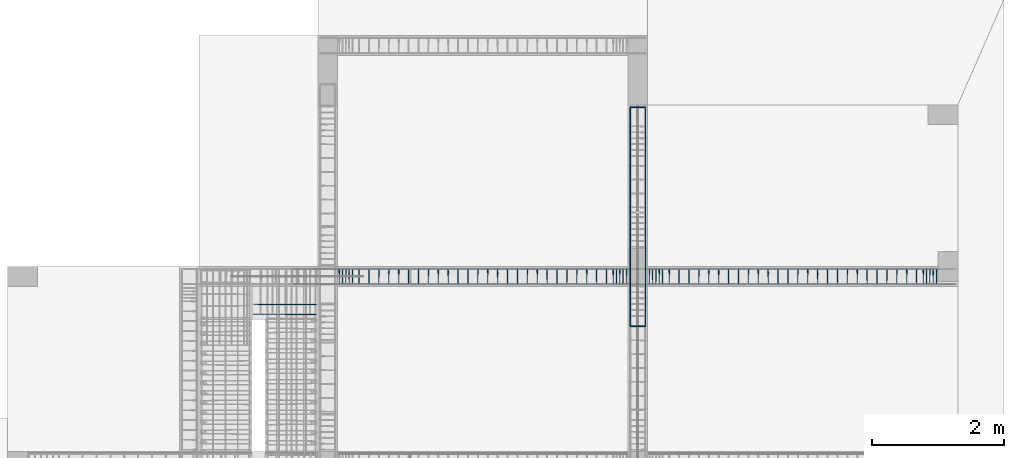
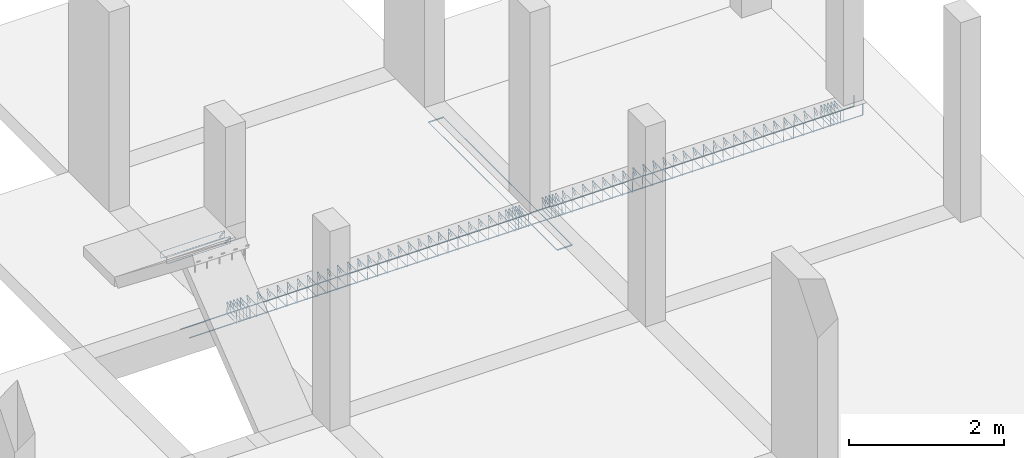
# One storey, part 5 of 5: 4 reinforcing bars.
"""IFC4 building model written with IfcOpenShell, lengths in metres."""

import ifcopenshell
import ifcopenshell.guid

model = None  # the IFC model being written
_history = None  # IfcOwnerHistory: only IFC2X3 demands one
_inside = {}  # id of a spatial element -> (the spatial element, [elements in it])
_under = {}  # id of a project, library or spatial element -> (it, [spatial elements below it])
_declared = {}  # id of a project -> (the project, [libraries it declares])
_typed = {}  # id of a type object -> (the type object, [elements of that type])
_made_of = {}  # id of a material, layer set ... -> (it, [elements and type objects made of it])


def new_model(schema):
    """Start an empty IFC model of exactly this schema.

    Asked for "IFC4X3", IfcOpenShell would pick the latest addendum, in which some entities
    have other attributes; the version numbers below select the first issue.
    IFC2X3 requires an IfcOwnerHistory on every rooted entity: one is made here for all.
    """
    global model, _history
    if schema == "IFC4X3":
        model = ifcopenshell.file(schema_version=(4, 3, 0, 0))
    else:
        model = ifcopenshell.file(schema=schema)
    _inside.clear()
    _under.clear()
    _declared.clear()
    _typed.clear()
    _made_of.clear()
    _history = None
    if model.schema == "IFC2X3":
        org = make("IfcOrganization", Name="unknown")
        user = make(
            "IfcPersonAndOrganization",
            ThePerson=make("IfcPerson", FamilyName="unknown"),
            TheOrganization=org,
        )
        app = make(
            "IfcApplication",
            ApplicationDeveloper=org,
            Version="unknown",
            ApplicationFullName="unknown",
            ApplicationIdentifier="unknown",
        )
        _history = make(
            "IfcOwnerHistory",
            OwningUser=user,
            OwningApplication=app,
            ChangeAction="ADDED",
            CreationDate=0,
        )
    return model


def make(cls, **values):
    """One entity of the class cls with the attributes given. An attribute that is None is left unset."""
    return model.create_entity(
        cls, **{name: value for name, value in values.items() if value is not None}
    )


def entity(cls, *values):
    """Any entity or typed value of the class cls, its attributes in the order of the schema. None: left unset."""
    e = model.create_entity(cls)
    for i, value in enumerate(values):
        if value is not None:
            e[i] = value
    return e


def rooted(cls, **values):
    """An entity with a GlobalId (a new one), such as an element, a storey or a relation."""
    return make(cls, GlobalId=ifcopenshell.guid.new(), OwnerHistory=_history, **values)


def si_unit(unit_type, name, prefix=None):
    """IfcSIUnit, for example si_unit("LENGTHUNIT", "METRE", prefix="MILLI")."""
    return make("IfcSIUnit", UnitType=unit_type, Prefix=prefix, Name=name)


def assignment(units):
    """IfcUnitAssignment: the units of a project."""
    return None if units is None else make("IfcUnitAssignment", Units=units)


def point(xyz):
    """IfcCartesianPoint."""
    return None if xyz is None else make("IfcCartesianPoint", Coordinates=xyz)


def direction(xyz):
    """IfcDirection."""
    return None if xyz is None else make("IfcDirection", DirectionRatios=xyz)


def frame(location, z_axis=None, x_axis=None):
    """IfcAxis2Placement3D, a coordinate frame: its origin and axes. An axis left out is left unset."""
    return make(
        "IfcAxis2Placement3D",
        Location=point(location),
        Axis=direction(z_axis),
        RefDirection=direction(x_axis),
    )


def origin_with_axes():
    """The frame at (0, 0, 0) with the z axis (0, 0, 1) and the x axis (1, 0, 0) written out."""
    return frame((0.0, 0.0, 0.0), z_axis=(0.0, 0.0, 1.0), x_axis=(1.0, 0.0, 0.0))


def place(relative_to, where):
    """IfcLocalPlacement: puts the frame where relative to a parent placement (None: the world)."""
    return make(
        "IfcLocalPlacement", PlacementRelTo=relative_to, RelativePlacement=where
    )


def context(
    kind, dimensions, precision=None, world=None, true_north=None, identifier=None
):
    """IfcGeometricRepresentationContext, for example the 3D "Model" context."""
    return make(
        "IfcGeometricRepresentationContext",
        ContextIdentifier=identifier,
        ContextType=kind,
        CoordinateSpaceDimension=dimensions,
        Precision=precision,
        WorldCoordinateSystem=world,
        TrueNorth=true_north,
    )


def project(units=None, contexts=None):
    """IfcProject with its units and contexts."""
    return rooted(
        "IfcProject",
        Name="project",
        RepresentationContexts=contexts,
        UnitsInContext=assignment(units),
    )


def spatial(cls, under=None, at=None, **own):
    """A site, building, storey or space (cls), placed at a placement, below another one or the project."""
    s = rooted(cls, ObjectPlacement=at, **own)
    if under is not None:
        _under.setdefault(under.id(), (under, []))[1].append(s)
    return s


def shape(context_of_items, identifier, shape_type, items):
    """IfcShapeRepresentation: the items that make up one representation, for example the "Body"."""
    return make(
        "IfcShapeRepresentation",
        ContextOfItems=context_of_items,
        RepresentationIdentifier=identifier,
        RepresentationType=shape_type,
        Items=items,
    )


def source(mapping_origin, context_of_items, identifier, shape_type, items):
    """IfcRepresentationMap: a shape defined once, which mapped items show again and again."""
    return make(
        "IfcRepresentationMap",
        MappingOrigin=mapping_origin,
        MappedRepresentation=shape(context_of_items, identifier, shape_type, items),
    )


def transform(
    local_origin,
    x_axis=None,
    y_axis=None,
    z_axis=None,
    scale=None,
    scale2=None,
    scale3=None,
    uniform=True,
):
    """IfcCartesianTransformationOperator3D, or its non-uniform kind. x_axis, y_axis, z_axis: its Axis1, 2, 3."""
    if uniform:
        return make(
            "IfcCartesianTransformationOperator3D",
            Axis1=direction(x_axis),
            Axis2=direction(y_axis),
            LocalOrigin=point(local_origin),
            Scale=scale,
            Axis3=direction(z_axis),
        )
    return make(
        "IfcCartesianTransformationOperator3DnonUniform",
        Axis1=direction(x_axis),
        Axis2=direction(y_axis),
        LocalOrigin=point(local_origin),
        Scale=scale,
        Axis3=direction(z_axis),
        Scale2=scale2,
        Scale3=scale3,
    )


def mapped(mapping_source, mapping_target):
    """IfcMappedItem: shows the shape of a source again, moved by a transform."""
    return make(
        "IfcMappedItem", MappingSource=mapping_source, MappingTarget=mapping_target
    )


def made_of(thing, what):
    """Note that an element or type object is made of a material, layer set ...; save() writes the relation."""
    if what is not None:
        _made_of.setdefault(what.id(), (what, []))[1].append(thing)
    return thing


def element(
    cls,
    number,
    at=None,
    inside=None,
    cuts=None,
    type_object=None,
    material=None,
    context=None,
    identifier="Body",
    shape_type=None,
    held_by="IfcProductDefinitionShape",
    body=None,
    shapes=None,
    **own,
):
    """One element of the class cls, such as IfcWall. Its Tag is "e" and its number.

    at: its placement. inside: the storey or other place that contains it. cuts: it is an
    opening in that element (IfcRelVoidsElement). A single representation is given by context,
    identifier, shape_type and body (its items); several are given by shapes. held_by: the class
    of the entity that holds the representations. save() writes the other relations.
    """
    e = rooted(cls, Tag="e%d" % number, ObjectPlacement=at, **own)
    if body is not None:
        shapes = [shape(context, identifier, shape_type, body)]
    if shapes is not None:
        e.Representation = make(held_by, Representations=shapes)
    if inside is not None:
        _inside.setdefault(inside.id(), (inside, []))[1].append(e)
    if cuts is not None:
        rooted(
            "IfcRelVoidsElement", RelatingBuildingElement=cuts, RelatedOpeningElement=e
        )
    if type_object is not None:
        _typed.setdefault(type_object.id(), (type_object, []))[1].append(e)
    return made_of(e, material)


def aggregate(whole, parts):
    """IfcRelAggregates: a whole, such as a stair, and the parts it consists of."""
    return rooted("IfcRelAggregates", RelatingObject=whole, RelatedObjects=parts)


def save(model, path):
    """Write the relations noted so far, then the file.

    IfcRelAggregates (storeys below a building ...), IfcRelContainedInSpatialStructure (elements
    in a storey), IfcRelDefinesByType, IfcRelAssociatesMaterial and IfcRelDeclares: one each for
    every whole, place, type object, material and project.
    """
    for whole, parts in _under.values():
        aggregate(whole, parts)
    for where, things in _inside.values():
        rooted(
            "IfcRelContainedInSpatialStructure",
            RelatedElements=things,
            RelatingStructure=where,
        )
    for kind, things in _typed.values():
        rooted("IfcRelDefinesByType", RelatedObjects=things, RelatingType=kind)
    for what, things in _made_of.values():
        rooted("IfcRelAssociatesMaterial", RelatedObjects=things, RelatingMaterial=what)
    for by, libraries in _declared.values():
        rooted("IfcRelDeclares", RelatingContext=by, RelatedDefinitions=libraries)
    model.write(path)


model = new_model("IFC4")

# Units and contexts
model_context = context("Model", 3, precision=1e-05, world=origin_with_axes())
ifc_project = project(units=[si_unit("LENGTHUNIT", "METRE"), si_unit("AREAUNIT", "SQUARE_METRE"), si_unit("VOLUMEUNIT", "CUBIC_METRE"), si_unit("MASSUNIT", "GRAM", prefix="KILO"), si_unit("TIMEUNIT", "SECOND"), si_unit("PLANEANGLEUNIT", "RADIAN"), si_unit("SOLIDANGLEUNIT", "STERADIAN"), si_unit("THERMODYNAMICTEMPERATUREUNIT", "DEGREE_CELSIUS")], contexts=[model_context])

# Site, building, storey
placement_1 = place(None, origin_with_axes())
site = spatial("IfcSite", under=ifc_project, at=placement_1, Name="Italia", CompositionType="ELEMENT")
building = spatial("IfcBuilding", under=site, at=placement_1, Name="Bifamiliare", CompositionType="ELEMENT")
storey_placement = place(None, frame((0.0, 0.0, 2.799999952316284), z_axis=(0.0, 0.0, 1.0), x_axis=(1.0, 0.0, 0.0)))
storey = spatial("IfcBuildingStorey", under=building, at=storey_placement, Name="Storey 1", CompositionType="ELEMENT", Elevation=2.799999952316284)

# Reinforcing bars
shared_shape_1 = source(origin_with_axes(), model_context, "Body", "AdvancedSweptSolid", [
    entity("IfcSweptDiskSolid", entity("IfcIndexedPolyCurve", entity("IfcCartesianPointList3D", [[6.12, 9.00529, 2.68429], [6.12085, 9.07307, 2.75207], [6.12092, 9.076, 2.75914], [6.12098, 9.076, 2.766], [6.12102, 9.07524, 2.76983], [6.12105, 9.07307, 2.77307], [6.12109, 9.06983, 2.77524], [6.12112, 9.066, 2.776], [6.12318, 8.834, 2.776], [6.12322, 8.83017, 2.77524], [6.12325, 8.82693, 2.77307], [6.12329, 8.82476, 2.76983], [6.12332, 8.824, 2.766], [6.12485, 8.824, 2.594], [6.12489, 8.82476, 2.59017], [6.12492, 8.82693, 2.58693], [6.12496, 8.83017, 2.58476], [6.12499, 8.834, 2.584], [6.12705, 9.066, 2.584], [6.12709, 9.06983, 2.58476], [6.12712, 9.07307, 2.58693], [6.12716, 9.07524, 2.59017], [6.12719, 9.076, 2.594], [6.12872, 9.076, 2.766], [6.12876, 9.07524, 2.76983], [6.12879, 9.07307, 2.77307], [6.12883, 9.06983, 2.77524], [6.12886, 9.066, 2.776], [6.12892, 9.05914, 2.776], [6.12899, 9.05207, 2.77307], [6.12984, 8.98429, 2.70529]]), [entity("IfcLineIndex", [1, 2]), entity("IfcLineIndex", [2, 3]), entity("IfcLineIndex", [3, 4]), entity("IfcLineIndex", [4, 5]), entity("IfcLineIndex", [5, 6]), entity("IfcLineIndex", [6, 7]), entity("IfcLineIndex", [7, 8]), entity("IfcLineIndex", [8, 9]), entity("IfcLineIndex", [9, 10]), entity("IfcLineIndex", [10, 11]), entity("IfcLineIndex", [11, 12]), entity("IfcLineIndex", [12, 13]), entity("IfcLineIndex", [13, 14]), entity("IfcLineIndex", [14, 15]), entity("IfcLineIndex", [15, 16]), entity("IfcLineIndex", [16, 17]), entity("IfcLineIndex", [17, 18]), entity("IfcLineIndex", [18, 19]), entity("IfcLineIndex", [19, 20]), entity("IfcLineIndex", [20, 21]), entity("IfcLineIndex", [21, 22]), entity("IfcLineIndex", [22, 23]), entity("IfcLineIndex", [23, 24]), entity("IfcLineIndex", [24, 25]), entity("IfcLineIndex", [25, 26]), entity("IfcLineIndex", [26, 27]), entity("IfcLineIndex", [27, 28]), entity("IfcLineIndex", [28, 29]), entity("IfcLineIndex", [29, 30]), entity("IfcLineIndex", [30, 31])], False), 0.004),
])
placement_2 = place(placement_1, origin_with_axes())
reinforcing_bar_1_placement = place(placement_2, origin_with_axes())
element("IfcReinforcingBar", 1, at=reinforcing_bar_1_placement, inside=storey, BarLength=1.10682, CrossSectionArea=5.0265e-05, NominalDiameter=0.008, context=model_context, shape_type="MappedRepresentation", body=[
    mapped(shared_shape_1, transform((3.15192, -0.000847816, 0.000749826), x_axis=(1.0, 0.000139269, -0.000125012), y_axis=(-0.000139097, 1.0, 0.0), z_axis=(0.000125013, 0.0, 1.0), scale=1.0)),
    mapped(shared_shape_1, transform((3.00192, -0.000847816, 0.000749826), x_axis=(1.0, 0.000139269, -0.000125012), y_axis=(-0.000139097, 1.0, 0.0), z_axis=(0.000125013, 0.0, 1.0), scale=1.0)),
    mapped(shared_shape_1, transform((3.45192, -0.000847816, 0.000749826), x_axis=(1.0, 0.000139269, -0.000125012), y_axis=(-0.000139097, 1.0, 0.0), z_axis=(0.000125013, 0.0, 1.0), scale=1.0)),
    mapped(shared_shape_1, transform((3.30192, -0.000847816, 0.000749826), x_axis=(1.0, 0.000139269, -0.000125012), y_axis=(-0.000139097, 1.0, 0.0), z_axis=(0.000125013, 0.0, 1.0), scale=1.0)),
    mapped(shared_shape_1, transform((2.55192, -0.000847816, 0.000749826), x_axis=(1.0, 0.000139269, -0.000125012), y_axis=(-0.000139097, 1.0, 0.0), z_axis=(0.000125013, 0.0, 1.0), scale=1.0)),
    mapped(shared_shape_1, transform((2.40192, -0.000847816, 0.000749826), x_axis=(1.0, 0.000139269, -0.000125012), y_axis=(-0.000139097, 1.0, 0.0), z_axis=(0.000125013, 0.0, 1.0), scale=1.0)),
    mapped(shared_shape_1, transform((2.85192, -0.000847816, 0.000749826), x_axis=(1.0, 0.000139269, -0.000125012), y_axis=(-0.000139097, 1.0, 0.0), z_axis=(0.000125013, 0.0, 1.0), scale=1.0)),
    mapped(shared_shape_1, transform((2.70192, -0.000847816, 0.000749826), x_axis=(1.0, 0.000139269, -0.000125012), y_axis=(-0.000139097, 1.0, 0.0), z_axis=(0.000125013, 0.0, 1.0), scale=1.0)),
    mapped(shared_shape_1, transform((4.30292, -0.000847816, 0.000749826), x_axis=(1.0, 0.000139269, -0.000125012), y_axis=(-0.000139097, 1.0, 0.0), z_axis=(0.000125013, 0.0, 1.0), scale=1.0)),
    mapped(shared_shape_1, transform((4.25292, -0.000847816, 0.000749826), x_axis=(1.0, 0.000139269, -0.000125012), y_axis=(-0.000139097, 1.0, 0.0), z_axis=(0.000125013, 0.0, 1.0), scale=1.0)),
    mapped(shared_shape_1, transform((2.25192, -0.000847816, 0.000749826), x_axis=(1.0, 0.000139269, -0.000125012), y_axis=(-0.000139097, 1.0, 0.0), z_axis=(0.000125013, 0.0, 1.0), scale=1.0)),
    mapped(shared_shape_1, transform((4.35292, -0.000847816, 0.000749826), x_axis=(1.0, 0.000139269, -0.000125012), y_axis=(-0.000139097, 1.0, 0.0), z_axis=(0.000125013, 0.0, 1.0), scale=1.0)),
    mapped(shared_shape_1, transform((4.05192, -0.000847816, 0.000749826), x_axis=(1.0, 0.000139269, -0.000125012), y_axis=(-0.000139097, 1.0, 0.0), z_axis=(0.000125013, 0.0, 1.0), scale=1.0)),
    mapped(shared_shape_1, transform((3.90192, -0.000847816, 0.000749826), x_axis=(1.0, 0.000139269, -0.000125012), y_axis=(-0.000139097, 1.0, 0.0), z_axis=(0.000125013, 0.0, 1.0), scale=1.0)),
    mapped(shared_shape_1, transform((4.20292, -0.000847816, 0.000749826), x_axis=(1.0, 0.000139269, -0.000125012), y_axis=(-0.000139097, 1.0, 0.0), z_axis=(0.000125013, 0.0, 1.0), scale=1.0)),
    mapped(shared_shape_1, transform((4.15292, -0.000847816, 0.000749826), x_axis=(1.0, 0.000139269, -0.000125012), y_axis=(-0.000139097, 1.0, 0.0), z_axis=(0.000125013, 0.0, 1.0), scale=1.0)),
    mapped(shared_shape_1, transform((0.750999, 0.0, 0.0), x_axis=(1.0, 0.0, 0.0), y_axis=(0.0, 1.0, 0.0), z_axis=(0.0, 0.0, 1.0), scale=1.0)),
    mapped(shared_shape_1, transform((0.600999, 0.0, 0.0), x_axis=(1.0, 0.0, 0.0), y_axis=(0.0, 1.0, 0.0), z_axis=(0.0, 0.0, 1.0), scale=1.0)),
    mapped(shared_shape_1, transform((3.75192, -0.000847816, 0.000749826), x_axis=(1.0, 0.000139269, -0.000125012), y_axis=(-0.000139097, 1.0, 0.0), z_axis=(0.000125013, 0.0, 1.0), scale=1.0)),
    mapped(shared_shape_1, transform((3.60192, -0.000847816, 0.000749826), x_axis=(1.0, 0.000139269, -0.000125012), y_axis=(-0.000139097, 1.0, 0.0), z_axis=(0.000125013, 0.0, 1.0), scale=1.0)),
    mapped(shared_shape_1, transform((0.199999, 0.0, 0.0), x_axis=(1.0, 0.0, 0.0), y_axis=(0.0, 1.0, 0.0), z_axis=(0.0, 0.0, 1.0), scale=1.0)),
    mapped(shared_shape_1, transform((0.15, 0.0, 0.0), x_axis=(1.0, 0.0, 0.0), y_axis=(0.0, 1.0, 0.0), z_axis=(0.0, 0.0, 1.0), scale=1.0)),
    mapped(shared_shape_1, transform((0.450999, 0.0, 0.0), x_axis=(1.0, 0.0, 0.0), y_axis=(0.0, 1.0, 0.0), z_axis=(0.0, 0.0, 1.0), scale=1.0)),
    mapped(shared_shape_1, transform((0.300999, 0.0, 0.0), x_axis=(1.0, 0.0, 0.0), y_axis=(0.0, 1.0, 0.0), z_axis=(0.0, 0.0, 1.0), scale=1.0)),
    mapped(shared_shape_1, transform((0.0, 0.0, 0.0), x_axis=(1.0, 0.0, 0.0), y_axis=(0.0, 1.0, 0.0), z_axis=(0.0, 0.0, 1.0), scale=1.0)),
    mapped(shared_shape_1, transform((2.10192, -0.000847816, 0.000749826), x_axis=(1.0, 0.000139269, -0.000125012), y_axis=(-0.000139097, 1.0, 0.0), z_axis=(0.000125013, 0.0, 1.0), scale=1.0)),
    mapped(shared_shape_1, transform((0.0999994, 0.0, 0.0), x_axis=(1.0, 0.0, 0.0), y_axis=(0.0, 1.0, 0.0), z_axis=(0.0, 0.0, 1.0), scale=1.0)),
    mapped(shared_shape_1, transform((0.0499997, 0.0, 0.0), x_axis=(1.0, 0.0, 0.0), y_axis=(0.0, 1.0, 0.0), z_axis=(0.0, 0.0, 1.0), scale=1.0)),
    mapped(shared_shape_1, transform((1.651, 0.0, 0.0), x_axis=(1.0, 0.0, 0.0), y_axis=(0.0, 1.0, 0.0), z_axis=(0.0, 0.0, 1.0), scale=1.0)),
    mapped(shared_shape_1, transform((1.501, 0.0, 0.0), x_axis=(1.0, 0.0, 0.0), y_axis=(0.0, 1.0, 0.0), z_axis=(0.0, 0.0, 1.0), scale=1.0)),
    mapped(shared_shape_1, transform((1.95192, -0.000847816, 0.000749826), x_axis=(1.0, 0.000139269, -0.000125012), y_axis=(-0.000139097, 1.0, 0.0), z_axis=(0.000125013, 0.0, 1.0), scale=1.0)),
    mapped(shared_shape_1, transform((1.801, 0.0, 0.0), x_axis=(1.0, 0.0, 0.0), y_axis=(0.0, 1.0, 0.0), z_axis=(0.0, 0.0, 1.0), scale=1.0)),
    mapped(shared_shape_1, transform((1.051, 0.0, 0.0), x_axis=(1.0, 0.0, 0.0), y_axis=(0.0, 1.0, 0.0), z_axis=(0.0, 0.0, 1.0), scale=1.0)),
    mapped(shared_shape_1, transform((0.900999, 0.0, 0.0), x_axis=(1.0, 0.0, 0.0), y_axis=(0.0, 1.0, 0.0), z_axis=(0.0, 0.0, 1.0), scale=1.0)),
    mapped(shared_shape_1, transform((1.351, 0.0, 0.0), x_axis=(1.0, 0.0, 0.0), y_axis=(0.0, 1.0, 0.0), z_axis=(0.0, 0.0, 1.0), scale=1.0)),
    mapped(shared_shape_1, transform((1.201, 0.0, 0.0), x_axis=(1.0, 0.0, 0.0), y_axis=(0.0, 1.0, 0.0), z_axis=(0.0, 0.0, 1.0), scale=1.0)),
    mapped(shared_shape_1, transform((7.85192, -0.000847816, 0.000749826), x_axis=(1.0, 0.000139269, -0.000125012), y_axis=(-0.000139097, 1.0, 0.0), z_axis=(0.000125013, 0.0, 1.0), scale=1.0)),
    mapped(shared_shape_1, transform((7.70192, -0.000847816, 0.000749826), x_axis=(1.0, 0.000139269, -0.000125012), y_axis=(-0.000139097, 1.0, 0.0), z_axis=(0.000125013, 0.0, 1.0), scale=1.0)),
    mapped(shared_shape_1, transform((8.15192, -0.000847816, 0.000749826), x_axis=(1.0, 0.000139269, -0.000125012), y_axis=(-0.000139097, 1.0, 0.0), z_axis=(0.000125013, 0.0, 1.0), scale=1.0)),
    mapped(shared_shape_1, transform((8.00192, -0.000847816, 0.000749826), x_axis=(1.0, 0.000139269, -0.000125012), y_axis=(-0.000139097, 1.0, 0.0), z_axis=(0.000125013, 0.0, 1.0), scale=1.0)),
    mapped(shared_shape_1, transform((7.25192, -0.000847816, 0.000749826), x_axis=(1.0, 0.000139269, -0.000125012), y_axis=(-0.000139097, 1.0, 0.0), z_axis=(0.000125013, 0.0, 1.0), scale=1.0)),
    mapped(shared_shape_1, transform((7.10192, -0.000847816, 0.000749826), x_axis=(1.0, 0.000139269, -0.000125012), y_axis=(-0.000139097, 1.0, 0.0), z_axis=(0.000125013, 0.0, 1.0), scale=1.0)),
    mapped(shared_shape_1, transform((7.55192, -0.000847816, 0.000749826), x_axis=(1.0, 0.000139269, -0.000125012), y_axis=(-0.000139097, 1.0, 0.0), z_axis=(0.000125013, 0.0, 1.0), scale=1.0)),
    mapped(shared_shape_1, transform((7.40192, -0.000847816, 0.000749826), x_axis=(1.0, 0.000139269, -0.000125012), y_axis=(-0.000139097, 1.0, 0.0), z_axis=(0.000125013, 0.0, 1.0), scale=1.0)),
    mapped(shared_shape_1, transform((9.00292, -0.000847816, 0.000749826), x_axis=(1.0, 0.000139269, -0.000125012), y_axis=(-0.000139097, 1.0, 0.0), z_axis=(0.000125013, 0.0, 1.0), scale=1.0)),
    mapped(shared_shape_1, transform((8.95292, -0.000847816, 0.000749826), x_axis=(1.0, 0.000139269, -0.000125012), y_axis=(-0.000139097, 1.0, 0.0), z_axis=(0.000125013, 0.0, 1.0), scale=1.0)),
    mapped(shared_shape_1, transform((6.95192, -0.000847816, 0.000749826), x_axis=(1.0, 0.000139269, -0.000125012), y_axis=(-0.000139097, 1.0, 0.0), z_axis=(0.000125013, 0.0, 1.0), scale=1.0)),
    mapped(shared_shape_1, transform((9.05292, -0.000847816, 0.000749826), x_axis=(1.0, 0.000139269, -0.000125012), y_axis=(-0.000139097, 1.0, 0.0), z_axis=(0.000125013, 0.0, 1.0), scale=1.0)),
    mapped(shared_shape_1, transform((8.75192, -0.000847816, 0.000749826), x_axis=(1.0, 0.000139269, -0.000125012), y_axis=(-0.000139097, 1.0, 0.0), z_axis=(0.000125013, 0.0, 1.0), scale=1.0)),
    mapped(shared_shape_1, transform((8.60192, -0.000847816, 0.000749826), x_axis=(1.0, 0.000139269, -0.000125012), y_axis=(-0.000139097, 1.0, 0.0), z_axis=(0.000125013, 0.0, 1.0), scale=1.0)),
    mapped(shared_shape_1, transform((8.90292, -0.000847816, 0.000749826), x_axis=(1.0, 0.000139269, -0.000125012), y_axis=(-0.000139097, 1.0, 0.0), z_axis=(0.000125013, 0.0, 1.0), scale=1.0)),
    mapped(shared_shape_1, transform((8.85292, -0.000847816, 0.000749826), x_axis=(1.0, 0.000139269, -0.000125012), y_axis=(-0.000139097, 1.0, 0.0), z_axis=(0.000125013, 0.0, 1.0), scale=1.0)),
    mapped(shared_shape_1, transform((5.45192, -0.000847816, 0.000749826), x_axis=(1.0, 0.000139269, -0.000125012), y_axis=(-0.000139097, 1.0, 0.0), z_axis=(0.000125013, 0.0, 1.0), scale=1.0)),
    mapped(shared_shape_1, transform((5.30192, -0.000847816, 0.000749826), x_axis=(1.0, 0.000139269, -0.000125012), y_axis=(-0.000139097, 1.0, 0.0), z_axis=(0.000125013, 0.0, 1.0), scale=1.0)),
    mapped(shared_shape_1, transform((8.45192, -0.000847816, 0.000749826), x_axis=(1.0, 0.000139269, -0.000125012), y_axis=(-0.000139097, 1.0, 0.0), z_axis=(0.000125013, 0.0, 1.0), scale=1.0)),
    mapped(shared_shape_1, transform((8.30192, -0.000847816, 0.000749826), x_axis=(1.0, 0.000139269, -0.000125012), y_axis=(-0.000139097, 1.0, 0.0), z_axis=(0.000125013, 0.0, 1.0), scale=1.0)),
    mapped(shared_shape_1, transform((4.90092, -0.000847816, 0.000749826), x_axis=(1.0, 0.000139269, -0.000125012), y_axis=(-0.000139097, 1.0, 0.0), z_axis=(0.000125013, 0.0, 1.0), scale=1.0)),
    mapped(shared_shape_1, transform((4.85092, -0.000847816, 0.000749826), x_axis=(1.0, 0.000139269, -0.000125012), y_axis=(-0.000139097, 1.0, 0.0), z_axis=(0.000125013, 0.0, 1.0), scale=1.0)),
    mapped(shared_shape_1, transform((5.15192, -0.000847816, 0.000749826), x_axis=(1.0, 0.000139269, -0.000125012), y_axis=(-0.000139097, 1.0, 0.0), z_axis=(0.000125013, 0.0, 1.0), scale=1.0)),
    mapped(shared_shape_1, transform((5.00192, -0.000847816, 0.000749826), x_axis=(1.0, 0.000139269, -0.000125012), y_axis=(-0.000139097, 1.0, 0.0), z_axis=(0.000125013, 0.0, 1.0), scale=1.0)),
    mapped(shared_shape_1, transform((4.70092, -0.000847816, 0.000749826), x_axis=(1.0, 0.000139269, -0.000125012), y_axis=(-0.000139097, 1.0, 0.0), z_axis=(0.000125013, 0.0, 1.0), scale=1.0)),
    mapped(shared_shape_1, transform((6.80192, -0.000847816, 0.000749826), x_axis=(1.0, 0.000139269, -0.000125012), y_axis=(-0.000139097, 1.0, 0.0), z_axis=(0.000125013, 0.0, 1.0), scale=1.0)),
    mapped(shared_shape_1, transform((4.80092, -0.000847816, 0.000749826), x_axis=(1.0, 0.000139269, -0.000125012), y_axis=(-0.000139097, 1.0, 0.0), z_axis=(0.000125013, 0.0, 1.0), scale=1.0)),
    mapped(shared_shape_1, transform((4.75092, -0.000847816, 0.000749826), x_axis=(1.0, 0.000139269, -0.000125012), y_axis=(-0.000139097, 1.0, 0.0), z_axis=(0.000125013, 0.0, 1.0), scale=1.0)),
    mapped(shared_shape_1, transform((6.35192, -0.000847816, 0.000749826), x_axis=(1.0, 0.000139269, -0.000125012), y_axis=(-0.000139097, 1.0, 0.0), z_axis=(0.000125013, 0.0, 1.0), scale=1.0)),
    mapped(shared_shape_1, transform((6.20192, -0.000847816, 0.000749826), x_axis=(1.0, 0.000139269, -0.000125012), y_axis=(-0.000139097, 1.0, 0.0), z_axis=(0.000125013, 0.0, 1.0), scale=1.0)),
    mapped(shared_shape_1, transform((6.65192, -0.000847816, 0.000749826), x_axis=(1.0, 0.000139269, -0.000125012), y_axis=(-0.000139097, 1.0, 0.0), z_axis=(0.000125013, 0.0, 1.0), scale=1.0)),
    mapped(shared_shape_1, transform((6.50192, -0.000847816, 0.000749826), x_axis=(1.0, 0.000139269, -0.000125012), y_axis=(-0.000139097, 1.0, 0.0), z_axis=(0.000125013, 0.0, 1.0), scale=1.0)),
    mapped(shared_shape_1, transform((5.75192, -0.000847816, 0.000749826), x_axis=(1.0, 0.000139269, -0.000125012), y_axis=(-0.000139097, 1.0, 0.0), z_axis=(0.000125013, 0.0, 1.0), scale=1.0)),
    mapped(shared_shape_1, transform((5.60192, -0.000847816, 0.000749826), x_axis=(1.0, 0.000139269, -0.000125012), y_axis=(-0.000139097, 1.0, 0.0), z_axis=(0.000125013, 0.0, 1.0), scale=1.0)),
    mapped(shared_shape_1, transform((6.05192, -0.000847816, 0.000749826), x_axis=(1.0, 0.000139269, -0.000125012), y_axis=(-0.000139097, 1.0, 0.0), z_axis=(0.000125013, 0.0, 1.0), scale=1.0)),
    mapped(shared_shape_1, transform((5.90192, -0.000847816, 0.000749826), x_axis=(1.0, 0.000139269, -0.000125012), y_axis=(-0.000139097, 1.0, 0.0), z_axis=(0.000125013, 0.0, 1.0), scale=1.0)),
])
shared_shape_2 = source(origin_with_axes(), model_context, "Body", "AdvancedSweptSolid", [
    entity("IfcSweptDiskSolid", entity("IfcIndexedPolyCurve", entity("IfcCartesianPointList3D", [[5.42418, 8.836, 2.595], [5.95, 8.836, 2.595], [15.455, 8.836, 2.595], [15.4588, 8.836, 2.59576], [15.4621, 8.836, 2.59793], [15.4642, 8.836, 2.60117], [15.465, 8.836, 2.605], [15.465, 8.836, 2.765]]), [entity("IfcLineIndex", [1, 2]), entity("IfcLineIndex", [2, 3]), entity("IfcLineIndex", [3, 4]), entity("IfcLineIndex", [4, 5]), entity("IfcLineIndex", [5, 6]), entity("IfcLineIndex", [6, 7]), entity("IfcLineIndex", [7, 8])], False), 0.008),
])
reinforcing_bar_2_placement = place(placement_2, origin_with_axes())
element("IfcReinforcingBar", 2, at=reinforcing_bar_2_placement, inside=storey, BarLength=10.2064, CrossSectionArea=0.00020106, NominalDiameter=0.016, context=model_context, shape_type="MappedRepresentation", body=[
    mapped(shared_shape_2, transform((0.0, 0.228, 0.0), x_axis=(1.0, 0.0, 0.0), y_axis=(0.0, 1.0, 0.0), z_axis=(0.0, 0.0, 1.0), scale=1.0)),
    mapped(shared_shape_2, transform((0.0, 0.0, 0.0), x_axis=(1.0, 0.0, 0.0), y_axis=(0.0, 1.0, 0.0), z_axis=(0.0, 0.0, 1.0), scale=1.0)),
])
shared_shape_3 = source(origin_with_axes(), model_context, "Body", "AdvancedSweptSolid", [
    entity("IfcSweptDiskSolid", entity("IfcIndexedPolyCurve", entity("IfcCartesianPointList3D", [[10.764, 8.19375, 2.586], [10.544, 8.19375, 2.586], [10.5402, 8.19451, 2.586], [10.5369, 8.19668, 2.586], [10.5348, 8.19992, 2.586], [10.534, 8.20375, 2.586], [10.534, 11.505, 2.586], [10.5348, 11.5088, 2.586], [10.5369, 11.5121, 2.586], [10.5402, 11.5142, 2.586], [10.544, 11.515, 2.586], [10.764, 11.515, 2.586]]), [entity("IfcLineIndex", [1, 2]), entity("IfcLineIndex", [2, 3]), entity("IfcLineIndex", [3, 4]), entity("IfcLineIndex", [4, 5]), entity("IfcLineIndex", [5, 6]), entity("IfcLineIndex", [6, 7]), entity("IfcLineIndex", [7, 8]), entity("IfcLineIndex", [8, 9]), entity("IfcLineIndex", [9, 10]), entity("IfcLineIndex", [10, 11]), entity("IfcLineIndex", [11, 12])], False), 0.006),
])
reinforcing_bar_3_placement = place(placement_2, origin_with_axes())
element("IfcReinforcingBar", 3, at=reinforcing_bar_3_placement, inside=storey, BarLength=3.77246, CrossSectionArea=0.0001131, NominalDiameter=0.012, context=model_context, shape_type="MappedRepresentation", body=[
    mapped(shared_shape_3, transform((21.3, 0.0, 5.16), x_axis=(-1.0, 0.0, 0.0), y_axis=(0.0, 1.0, 0.0), z_axis=(0.0, 0.0, -1.0), scale=1.0)),
    mapped(shared_shape_3, transform((0.0, 0.0, 0.0), x_axis=(1.0, 0.0, 0.0), y_axis=(0.0, 1.0, 0.0), z_axis=(0.0, 0.0, 1.0), scale=1.0)),
])
shared_shape_4 = source(origin_with_axes(), model_context, "Body", "AdvancedSweptSolid", [
    entity("IfcSweptDiskSolid", entity("IfcIndexedPolyCurve", entity("IfcCartesianPointList3D", [[5.70529, 8.37997, 4.25929], [5.77307, 8.37961, 4.32707], [5.776, 8.37958, 4.33414], [5.776, 8.37956, 4.341], [5.77524, 8.37954, 4.34483], [5.77307, 8.37953, 4.34807], [5.76983, 8.37951, 4.35024], [5.766, 8.3795, 4.351], [4.834, 8.37598, 4.351], [4.83017, 8.37596, 4.35024], [4.82693, 8.37595, 4.34807], [4.82476, 8.37593, 4.34483], [4.824, 8.37592, 4.341], [4.824, 8.37561, 4.259], [4.82476, 8.3756, 4.25517], [4.82693, 8.37558, 4.25193], [4.83017, 8.37557, 4.24976], [4.834, 8.37555, 4.249], [5.766, 8.37203, 4.249], [5.76983, 8.37202, 4.24976], [5.77307, 8.372, 4.25193], [5.77524, 8.37199, 4.25517], [5.776, 8.37197, 4.259], [5.776, 8.37167, 4.341], [5.77524, 8.37165, 4.34483], [5.77307, 8.37164, 4.34807], [5.76983, 8.37162, 4.35024], [5.766, 8.37161, 4.351], [5.75914, 8.37158, 4.351], [5.75207, 8.37155, 4.34807], [5.68429, 8.37119, 4.28029]]), [entity("IfcLineIndex", [1, 2]), entity("IfcLineIndex", [2, 3]), entity("IfcLineIndex", [3, 4]), entity("IfcLineIndex", [4, 5]), entity("IfcLineIndex", [5, 6]), entity("IfcLineIndex", [6, 7]), entity("IfcLineIndex", [7, 8]), entity("IfcLineIndex", [8, 9]), entity("IfcLineIndex", [9, 10]), entity("IfcLineIndex", [10, 11]), entity("IfcLineIndex", [11, 12]), entity("IfcLineIndex", [12, 13]), entity("IfcLineIndex", [13, 14]), entity("IfcLineIndex", [14, 15]), entity("IfcLineIndex", [15, 16]), entity("IfcLineIndex", [16, 17]), entity("IfcLineIndex", [17, 18]), entity("IfcLineIndex", [18, 19]), entity("IfcLineIndex", [19, 20]), entity("IfcLineIndex", [20, 21]), entity("IfcLineIndex", [21, 22]), entity("IfcLineIndex", [22, 23]), entity("IfcLineIndex", [23, 24]), entity("IfcLineIndex", [24, 25]), entity("IfcLineIndex", [25, 26]), entity("IfcLineIndex", [26, 27]), entity("IfcLineIndex", [27, 28]), entity("IfcLineIndex", [28, 29]), entity("IfcLineIndex", [29, 30]), entity("IfcLineIndex", [30, 31])], False), 0.004),
])
reinforcing_bar_4_placement = place(placement_2, origin_with_axes())
element("IfcReinforcingBar", 4, at=reinforcing_bar_4_placement, inside=storey, BarLength=2.32679, CrossSectionArea=5.0265e-05, NominalDiameter=0.008, context=model_context, shape_type="MappedRepresentation", body=[
    mapped(shared_shape_4, transform((0.0, 0.150028, 0.0), x_axis=(1.0, 0.0, 0.0), y_axis=(0.0, 1.0, 0.0), z_axis=(0.0, 0.0, 1.0), scale=1.0)),
    mapped(shared_shape_4, transform((0.0, 0.0, 0.0), x_axis=(1.0, 0.0, 0.0), y_axis=(0.0, 1.0, 0.0), z_axis=(0.0, 0.0, 1.0), scale=1.0)),
])

save(model, "model.ifc")
